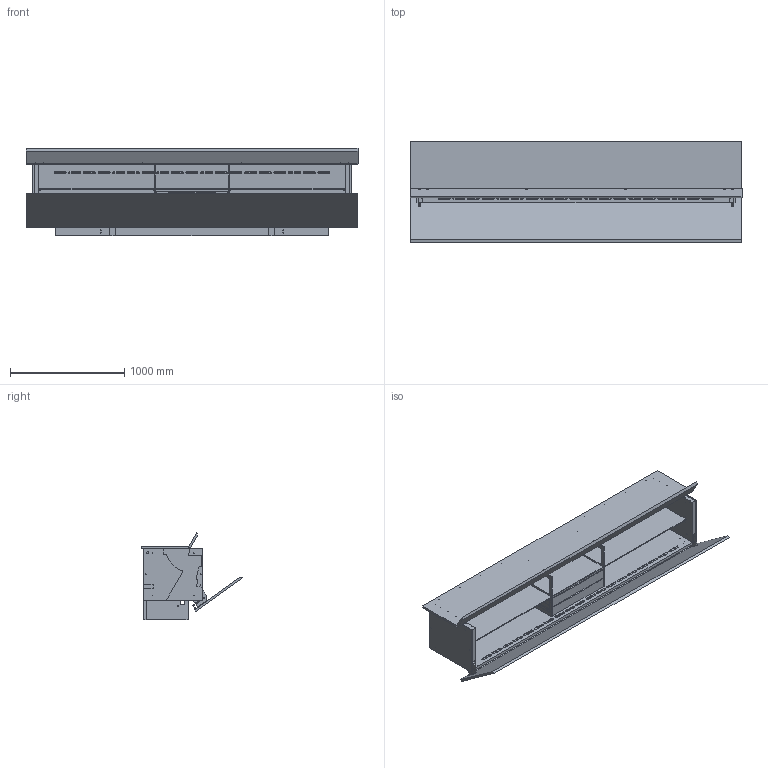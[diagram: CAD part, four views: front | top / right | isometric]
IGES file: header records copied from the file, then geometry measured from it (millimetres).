
Global section: file name: C:\Users\prell\Desktop\Ludwig 290.igs; native system: Rhinoceros ( May  7 2019 ); preprocessor: Trout Lake IGES 012 May  7 2019; date: 210831.124355; units: millimetre
Bounding box: 2900 x 889.33 x 762.84 mm (x, y, z)
Volume: 174290561.5 mm3; surface area: 21828785.4 mm2
Topology: 77 solids, 77 shells, 2677 faces, 6240 edges, 3990 vertices
Faces by surface type: bspline 2677
